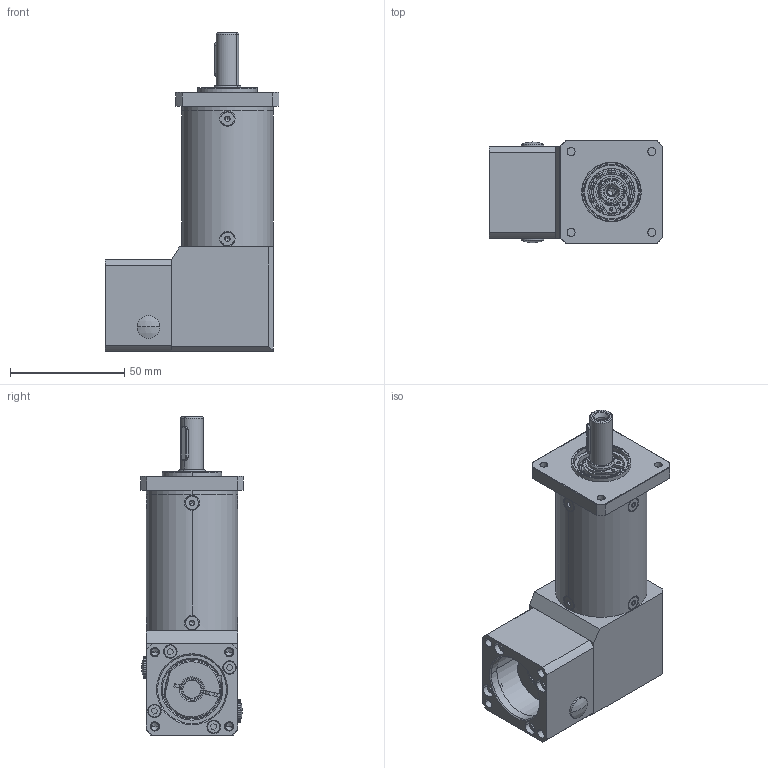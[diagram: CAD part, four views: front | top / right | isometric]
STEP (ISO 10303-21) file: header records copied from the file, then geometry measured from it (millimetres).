
FILE_DESCRIPTION (( 'STEP AP203' ), '1' );
FILE_NAME ('WPF40L3-i-P2-S2-8-25-30-46-M4.step', '2020-03-30T09:04:48', ( '个人用户' ), ( '微软中国' ), 'SwSTEP 2.0', 'SolidWorks 2018', '' );
FILE_SCHEMA (( 'CONFIG_CONTROL_DESIGN' ));
Length unit declared in the file: millimetre
Products named in the file (1): WPF40L3-i-P2-S2-8-25-30-46-M4
Bounding box: 76 x 45 x 139 mm (x, y, z)
Volume: 144213 mm3; surface area: 73334.3 mm2
Topology: 40 solids, 40 shells, 1431 faces, 3646 edges, 2295 vertices
Faces by surface type: cylinder 444, plane 355, cone 222, sphere 220, torus 190
Entity records: 50864 total; most frequent: CARTESIAN_POINT 16270, DIRECTION 7355, ORIENTED_EDGE 7224, EDGE_CURVE 3612, AXIS2_PLACEMENT_3D 3184, VERTEX_POINT 2295, CIRCLE 1752, EDGE_LOOP 1657
